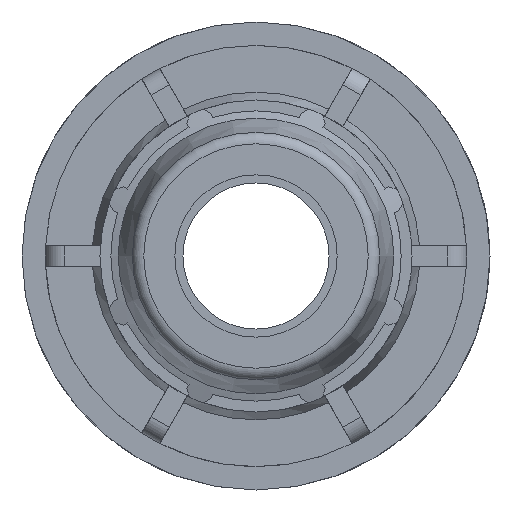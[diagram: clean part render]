
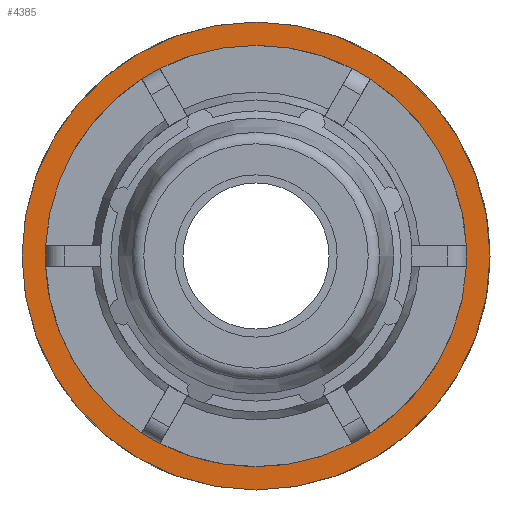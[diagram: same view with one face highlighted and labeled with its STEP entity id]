
A CAD part, left-side view. The second image highlights one B-rep face of the part: STEP entity #4385.
In plain terms, the highlighted planar face has unit normal (-1, 0, 0).
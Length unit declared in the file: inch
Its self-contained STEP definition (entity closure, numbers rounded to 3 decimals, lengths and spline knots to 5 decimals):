
#48=FACE_BOUND('',#578,.T.);
#358=FACE_OUTER_BOUND('',#577,.T.);
#577=EDGE_LOOP('',(#3585,#3586));
#578=EDGE_LOOP('',(#3587,#3588));
#655=CIRCLE('',#4516,1.89);
#656=CIRCLE('',#4517,1.89);
#793=CIRCLE('',#4797,1.512);
#794=CIRCLE('',#4798,1.512);
#1651=VERTEX_POINT('',#6353);
#1652=VERTEX_POINT('',#6355);
#1926=VERTEX_POINT('',#7506);
#1927=VERTEX_POINT('',#7507);
#2104=EDGE_CURVE('',#1651,#1652,#655,.T.);
#2105=EDGE_CURVE('',#1652,#1651,#656,.T.);
#2530=EDGE_CURVE('',#1926,#1927,#793,.T.);
#2531=EDGE_CURVE('',#1927,#1926,#794,.T.);
#3585=ORIENTED_EDGE('',*,*,#2105,.F.);
#3586=ORIENTED_EDGE('',*,*,#2104,.F.);
#3587=ORIENTED_EDGE('',*,*,#2530,.T.);
#3588=ORIENTED_EDGE('',*,*,#2531,.T.);
#3972=PLANE('',#4796);
#4385=ADVANCED_FACE('',(#358,#48),#3972,.T.);
#4516=AXIS2_PLACEMENT_3D('',#6356,#5105,#5106);
#4517=AXIS2_PLACEMENT_3D('',#6357,#5107,#5108);
#4796=AXIS2_PLACEMENT_3D('',#7505,#5889,#5890);
#4797=AXIS2_PLACEMENT_3D('',#7508,#5891,#5892);
#4798=AXIS2_PLACEMENT_3D('',#7509,#5893,#5894);
#5105=DIRECTION('center_axis',(1.,0.,0.));
#5106=DIRECTION('ref_axis',(0.,0.,-1.));
#5107=DIRECTION('center_axis',(1.,0.,0.));
#5108=DIRECTION('ref_axis',(0.,0.,-1.));
#5889=DIRECTION('center_axis',(-1.,0.,0.));
#5890=DIRECTION('ref_axis',(0.,0.,1.));
#5891=DIRECTION('center_axis',(1.,0.,0.));
#5892=DIRECTION('ref_axis',(0.,0.,-1.));
#5893=DIRECTION('center_axis',(1.,0.,0.));
#5894=DIRECTION('ref_axis',(0.,0.,-1.));
#6353=CARTESIAN_POINT('',(1.45899,-1.89,0.));
#6355=CARTESIAN_POINT('',(1.45899,0.,1.89));
#6356=CARTESIAN_POINT('Origin',(1.45899,0.,0.));
#6357=CARTESIAN_POINT('Origin',(1.45899,0.,0.));
#7505=CARTESIAN_POINT('Origin',(1.45899,1.89,0.));
#7506=CARTESIAN_POINT('',(1.45899,1.512,0.));
#7507=CARTESIAN_POINT('',(1.45899,-1.512,0.));
#7508=CARTESIAN_POINT('Origin',(1.45899,0.,0.));
#7509=CARTESIAN_POINT('Origin',(1.45899,0.,0.));
